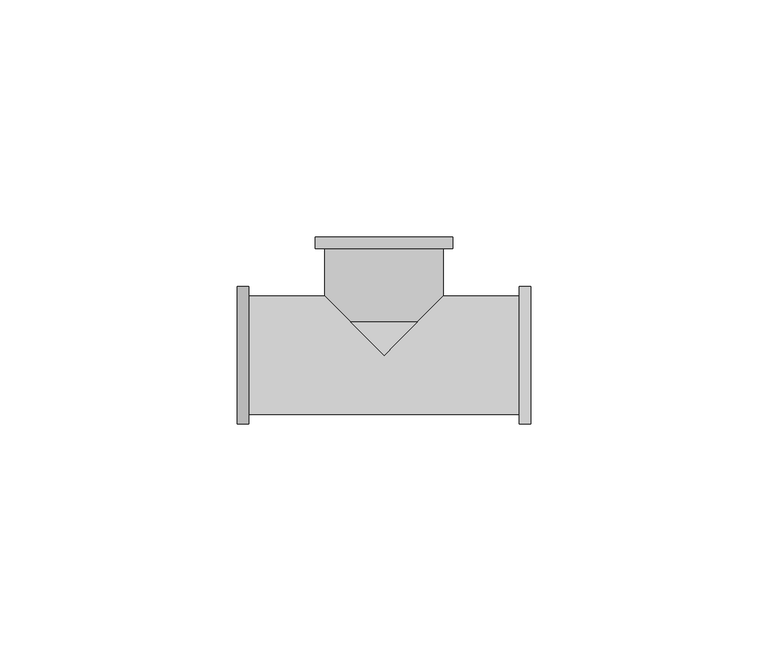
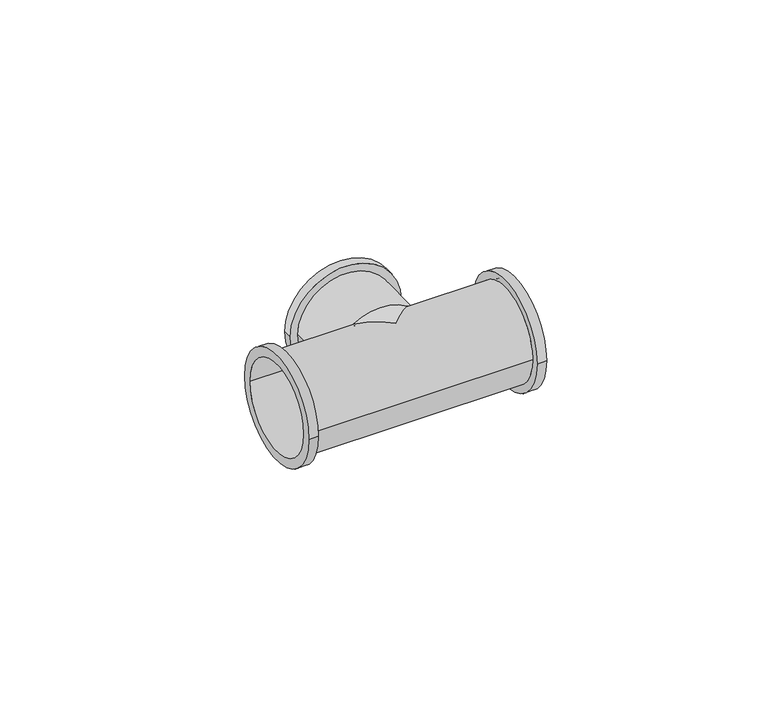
"""IFC4 building model written with IfcOpenShell, lengths in millimetres: pipe fitting geometry, БИР ПЕКС_НПР_Тройник_ВР : Тройник с внутренней резьбой."""

import ifcopenshell
import ifcopenshell.guid

model = None  # the IFC model being written
_history = None  # IfcOwnerHistory: only IFC2X3 demands one
_inside = {}  # id of a spatial element -> (the spatial element, [elements in it])
_under = {}  # id of a project, library or spatial element -> (it, [spatial elements below it])
_declared = {}  # id of a project -> (the project, [libraries it declares])
_typed = {}  # id of a type object -> (the type object, [elements of that type])
_made_of = {}  # id of a material, layer set ... -> (it, [elements and type objects made of it])


def new_model(schema):
    """Start an empty IFC model of exactly this schema.

    Asked for "IFC4X3", IfcOpenShell would pick the latest addendum, in which some entities
    have other attributes; the version numbers below select the first issue.
    IFC2X3 requires an IfcOwnerHistory on every rooted entity: one is made here for all.
    """
    global model, _history
    if schema == "IFC4X3":
        model = ifcopenshell.file(schema_version=(4, 3, 0, 0))
    else:
        model = ifcopenshell.file(schema=schema)
    _inside.clear()
    _under.clear()
    _declared.clear()
    _typed.clear()
    _made_of.clear()
    _history = None
    if model.schema == "IFC2X3":
        org = make("IfcOrganization", Name="unknown")
        user = make(
            "IfcPersonAndOrganization",
            ThePerson=make("IfcPerson", FamilyName="unknown"),
            TheOrganization=org,
        )
        app = make(
            "IfcApplication",
            ApplicationDeveloper=org,
            Version="unknown",
            ApplicationFullName="unknown",
            ApplicationIdentifier="unknown",
        )
        _history = make(
            "IfcOwnerHistory",
            OwningUser=user,
            OwningApplication=app,
            ChangeAction="ADDED",
            CreationDate=0,
        )
    return model


def make(cls, **values):
    """One entity of the class cls with the attributes given. An attribute that is None is left unset."""
    return model.create_entity(
        cls, **{name: value for name, value in values.items() if value is not None}
    )


def rooted(cls, **values):
    """An entity with a GlobalId (a new one), such as an element, a storey or a relation."""
    return make(cls, GlobalId=ifcopenshell.guid.new(), OwnerHistory=_history, **values)


def si_unit(unit_type, name, prefix=None):
    """IfcSIUnit, for example si_unit("LENGTHUNIT", "METRE", prefix="MILLI")."""
    return make("IfcSIUnit", UnitType=unit_type, Prefix=prefix, Name=name)


def assignment(units):
    """IfcUnitAssignment: the units of a project."""
    return None if units is None else make("IfcUnitAssignment", Units=units)


def point(xyz):
    """IfcCartesianPoint."""
    return None if xyz is None else make("IfcCartesianPoint", Coordinates=xyz)


def direction(xyz):
    """IfcDirection."""
    return None if xyz is None else make("IfcDirection", DirectionRatios=xyz)


def frame(location, z_axis=None, x_axis=None):
    """IfcAxis2Placement3D, a coordinate frame: its origin and axes. An axis left out is left unset."""
    return make(
        "IfcAxis2Placement3D",
        Location=point(location),
        Axis=direction(z_axis),
        RefDirection=direction(x_axis),
    )


def origin():
    """The frame at (0, 0, 0) with its axes left unset."""
    return frame((0.0, 0.0, 0.0))


def place(relative_to, where):
    """IfcLocalPlacement: puts the frame where relative to a parent placement (None: the world)."""
    return make(
        "IfcLocalPlacement", PlacementRelTo=relative_to, RelativePlacement=where
    )


def context(
    kind, dimensions, precision=None, world=None, true_north=None, identifier=None
):
    """IfcGeometricRepresentationContext, for example the 3D "Model" context."""
    return make(
        "IfcGeometricRepresentationContext",
        ContextIdentifier=identifier,
        ContextType=kind,
        CoordinateSpaceDimension=dimensions,
        Precision=precision,
        WorldCoordinateSystem=world,
        TrueNorth=true_north,
    )


def project(units=None, contexts=None):
    """IfcProject with its units and contexts."""
    return rooted(
        "IfcProject",
        Name="project",
        RepresentationContexts=contexts,
        UnitsInContext=assignment(units),
    )


def spatial(cls, under=None, at=None, **own):
    """A site, building, storey or space (cls), placed at a placement, below another one or the project."""
    s = rooted(cls, ObjectPlacement=at, **own)
    if under is not None:
        _under.setdefault(under.id(), (under, []))[1].append(s)
    return s


def polyline(points):
    """IfcPolyline through the points."""
    return make("IfcPolyline", Points=[point(p) for p in points])


def circle_curve(where, radius):
    """IfcCircle in the frame where."""
    return make("IfcCircle", Position=where, Radius=radius)


def ellipse_curve(where, semi_axis1, semi_axis2):
    """IfcEllipse in the frame where."""
    return make(
        "IfcEllipse", Position=where, SemiAxis1=semi_axis1, SemiAxis2=semi_axis2
    )


def shape(context_of_items, identifier, shape_type, items):
    """IfcShapeRepresentation: the items that make up one representation, for example the "Body"."""
    return make(
        "IfcShapeRepresentation",
        ContextOfItems=context_of_items,
        RepresentationIdentifier=identifier,
        RepresentationType=shape_type,
        Items=items,
    )


def source(mapping_origin, context_of_items, identifier, shape_type, items):
    """IfcRepresentationMap: a shape defined once, which mapped items show again and again."""
    return make(
        "IfcRepresentationMap",
        MappingOrigin=mapping_origin,
        MappedRepresentation=shape(context_of_items, identifier, shape_type, items),
    )


def transform(
    local_origin,
    x_axis=None,
    y_axis=None,
    z_axis=None,
    scale=None,
    scale2=None,
    scale3=None,
    uniform=True,
):
    """IfcCartesianTransformationOperator3D, or its non-uniform kind. x_axis, y_axis, z_axis: its Axis1, 2, 3."""
    if uniform:
        return make(
            "IfcCartesianTransformationOperator3D",
            Axis1=direction(x_axis),
            Axis2=direction(y_axis),
            LocalOrigin=point(local_origin),
            Scale=scale,
            Axis3=direction(z_axis),
        )
    return make(
        "IfcCartesianTransformationOperator3DnonUniform",
        Axis1=direction(x_axis),
        Axis2=direction(y_axis),
        LocalOrigin=point(local_origin),
        Scale=scale,
        Axis3=direction(z_axis),
        Scale2=scale2,
        Scale3=scale3,
    )


def mapped(mapping_source, mapping_target):
    """IfcMappedItem: shows the shape of a source again, moved by a transform."""
    return make(
        "IfcMappedItem", MappingSource=mapping_source, MappingTarget=mapping_target
    )


def made_of(thing, what):
    """Note that an element or type object is made of a material, layer set ...; save() writes the relation."""
    if what is not None:
        _made_of.setdefault(what.id(), (what, []))[1].append(thing)
    return thing


def element(
    cls,
    number,
    at=None,
    inside=None,
    cuts=None,
    type_object=None,
    material=None,
    context=None,
    identifier="Body",
    shape_type=None,
    held_by="IfcProductDefinitionShape",
    body=None,
    shapes=None,
    **own,
):
    """One element of the class cls, such as IfcWall. Its Tag is "e" and its number.

    at: its placement. inside: the storey or other place that contains it. cuts: it is an
    opening in that element (IfcRelVoidsElement). A single representation is given by context,
    identifier, shape_type and body (its items); several are given by shapes. held_by: the class
    of the entity that holds the representations. save() writes the other relations.
    """
    e = rooted(cls, Tag="e%d" % number, ObjectPlacement=at, **own)
    if body is not None:
        shapes = [shape(context, identifier, shape_type, body)]
    if shapes is not None:
        e.Representation = make(held_by, Representations=shapes)
    if inside is not None:
        _inside.setdefault(inside.id(), (inside, []))[1].append(e)
    if cuts is not None:
        rooted(
            "IfcRelVoidsElement", RelatingBuildingElement=cuts, RelatedOpeningElement=e
        )
    if type_object is not None:
        _typed.setdefault(type_object.id(), (type_object, []))[1].append(e)
    return made_of(e, material)


def aggregate(whole, parts):
    """IfcRelAggregates: a whole, such as a stair, and the parts it consists of."""
    return rooted("IfcRelAggregates", RelatingObject=whole, RelatedObjects=parts)


def save(model, path):
    """Write the relations noted so far, then the file.

    IfcRelAggregates (storeys below a building ...), IfcRelContainedInSpatialStructure (elements
    in a storey), IfcRelDefinesByType, IfcRelAssociatesMaterial and IfcRelDeclares: one each for
    every whole, place, type object, material and project.
    """
    for whole, parts in _under.values():
        aggregate(whole, parts)
    for where, things in _inside.values():
        rooted(
            "IfcRelContainedInSpatialStructure",
            RelatedElements=things,
            RelatingStructure=where,
        )
    for kind, things in _typed.values():
        rooted("IfcRelDefinesByType", RelatedObjects=things, RelatingType=kind)
    for what, things in _made_of.values():
        rooted("IfcRelAssociatesMaterial", RelatedObjects=things, RelatingMaterial=what)
    for by, libraries in _declared.values():
        rooted("IfcRelDeclares", RelatingContext=by, RelatedDefinitions=libraries)
    model.write(path)


def plane_surface(at):
    """IfcPlane: the flat surface through the origin of the frame at, square to its z axis."""
    return make("IfcPlane", Position=at)


def cylinder_surface(at, radius):
    """IfcCylindricalSurface: all points at the distance radius from the z axis of the frame at."""
    return make("IfcCylindricalSurface", Position=at, Radius=radius)


def revolved_surface(curve, axis_point, axis_direction):
    """IfcSurfaceOfRevolution: the curve turned about the line through axis_point along axis_direction."""
    return make(
        "IfcSurfaceOfRevolution",
        SweptCurve=make("IfcArbitraryOpenProfileDef", ProfileType="CURVE", Curve=curve),
        AxisPosition=make("IfcAxis1Placement", Location=point(axis_point), Axis=direction(axis_direction)),
    )


def advanced_brep(points, edges, surfaces, faces):
    """IfcAdvancedBrep: a solid bounded by faces that lie on surfaces and meet in shared edges.

    An edge is (start, end): straight between two places in points (the first is 0);
    or (start, end, curve); or (start, end, curve, False) where it runs against its curve.
    A face is (place in surfaces, loops), or (place, loops, False) where it looks against
    its surface's normal. A loop lists edges by number (the first is 1), with a minus sign
    where the edge is run from its end to its start. The first loop is the outer one.
    """
    corners = [point(p) for p in points]
    vertices = [make("IfcVertexPoint", VertexGeometry=c) for c in corners]
    made = []
    for start, end, *more in edges:
        made.append(
            make(
                "IfcEdgeCurve",
                EdgeStart=vertices[start],
                EdgeEnd=vertices[end],
                EdgeGeometry=more[0] if more else make("IfcPolyline", Points=[corners[start], corners[end]]),
                SameSense=more[1] if len(more) > 1 else True,
            )
        )
    hull = []
    for where, loops, *sense in faces:
        bounds = []
        for j, loop in enumerate(loops):
            ring = [make("IfcOrientedEdge", EdgeElement=made[abs(k) - 1], Orientation=k > 0) for k in loop]
            bounds.append(
                make(
                    "IfcFaceOuterBound" if j == 0 else "IfcFaceBound",
                    Bound=make("IfcEdgeLoop", EdgeList=ring),
                    Orientation=True,
                )
            )
        hull.append(make("IfcAdvancedFace", Bounds=bounds, FaceSurface=surfaces[where], SameSense=sense[0] if sense else True))
    return make("IfcAdvancedBrep", Outer=make("IfcClosedShell", CfsFaces=hull))


def pipe_fitting_9d34596f(model_context):
    return source(origin(), model_context, "Body", "AdvancedBrep", [
        advanced_brep(
        [(7.0, 7.0, -10.3561576), (0.0, 0.0, -12.5), (-7.0, 7.0, -10.3561576), (0.0, 0.0, 12.5), (7.0, 7.0, 10.3561576), (-7.0, 7.0, 10.3561576), (31.0, -14.5, 0.0), (31.0, 14.5, 0.0), (31.0, 12.0, 0.0), (31.0, -12.0, 0.0), (-31.0, -14.5, 0.0), (-31.0, 14.5, 0.0), (-31.0, -12.0, 0.0), (-31.0, 12.0, 0.0), (12.5, 12.5, 0.0), (28.5, 12.5, 0.0), (28.5, -12.5, 0.0), (-28.5, -12.5, 0.0), (-28.5, 12.5, 0.0), (-12.5, 12.5, 0.0), (-14.5, 22.5, 0.0), (14.5, 22.5, 0.0), (12.5, 22.5, 0.0), (-12.5, 22.5, 0.0), (-14.5, 25.0, 0.0), (14.5, 25.0, 0.0), (-28.5, -14.5, 0.0), (-28.5, 14.5, 0.0), (28.5, -14.5, 0.0), (28.5, 14.5, 0.0), (12.0, 12.0, 0.0), (0.0, 0.0, -12.0), (-12.0, 12.0, 0.0), (0.0, 0.0, 12.0), (12.0, 16.0, 0.0), (-12.0, 16.0, 0.0)],
        [
            (0, 1, ellipse_curve(frame((0.0, 0.0, 0.0), z_axis=(-0.7071067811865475, 0.7071067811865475, 0.0), x_axis=(-0.7071067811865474, -0.7071067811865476, 0.0)), 17.6776695, 12.5)),
            (1, 2, ellipse_curve(frame((0.0, 0.0, 0.0), z_axis=(0.7071067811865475, 0.7071067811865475, 0.0), x_axis=(0.7071067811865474, -0.7071067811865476, 0.0)), 17.6776695, 12.5)),
            (2, 0, circle_curve(frame((0.0, 7.0, 0.0), z_axis=(0.0, -1.0, 0.0), x_axis=(1.0, 0.0, 0.0)), 12.5)),
            (3, 4, ellipse_curve(frame((0.0, 0.0, 0.0), z_axis=(-0.7071067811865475, 0.7071067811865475, 0.0), x_axis=(-0.7071067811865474, -0.7071067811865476, 0.0)), 17.6776695, 12.5)),
            (4, 5, circle_curve(frame((0.0, 7.0, 0.0), z_axis=(0.0, -1.0, 0.0), x_axis=(1.0, 0.0, 0.0)), 12.5)),
            (5, 3, ellipse_curve(frame((0.0, 0.0, 0.0), z_axis=(0.7071067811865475, 0.7071067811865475, 0.0), x_axis=(0.7071067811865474, -0.7071067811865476, 0.0)), 17.6776695, 12.5)),
            (6, 7, circle_curve(frame((31.0, 0.0, 0.0), z_axis=(1.0, 0.0, 0.0), x_axis=(0.0, 1.0, 0.0)), 14.5)),
            (7, 6, circle_curve(frame((31.0, 0.0, 0.0), z_axis=(1.0, 0.0, 0.0), x_axis=(0.0, 1.0, 0.0)), 14.5)),
            (8, 9, circle_curve(frame((31.0, 0.0, 0.0), z_axis=(-1.0, 0.0, 0.0), x_axis=(0.0, 1.0, 0.0)), 12.0)),
            (9, 8, circle_curve(frame((31.0, 0.0, 0.0), z_axis=(-1.0, 0.0, 0.0), x_axis=(0.0, 1.0, 0.0)), 12.0)),
            (10, 11, circle_curve(frame((-31.0, 0.0, 0.0), z_axis=(-1.0, 0.0, 0.0), x_axis=(0.0, 1.0, 0.0)), 14.5)),
            (11, 10, circle_curve(frame((-31.0, 0.0, 0.0), z_axis=(-1.0, 0.0, 0.0), x_axis=(0.0, 1.0, 0.0)), 14.5)),
            (12, 13, circle_curve(frame((-31.0, 0.0, 0.0), z_axis=(1.0, 0.0, 0.0), x_axis=(0.0, 1.0, 0.0)), 12.0)),
            (13, 12, circle_curve(frame((-31.0, 0.0, 0.0), z_axis=(1.0, 0.0, 0.0), x_axis=(0.0, 1.0, 0.0)), 12.0)),
            (0, 14, ellipse_curve(frame((0.0, 0.0, 0.0), z_axis=(0.7071067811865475, -0.7071067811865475, 0.0), x_axis=(0.7071067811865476, 0.7071067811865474, 0.0)), 17.6776695, 12.5)),
            (14, 15),
            (15, 16, circle_curve(frame((28.5, 0.0, 0.0), z_axis=(-1.0, 0.0, 0.0), x_axis=(0.0, 1.0, 0.0)), 12.5)),
            (16, 17),
            (17, 18, circle_curve(frame((-28.5, 0.0, 0.0), z_axis=(1.0, 0.0, 0.0), x_axis=(0.0, 1.0, 0.0)), 12.5)),
            (18, 19),
            (19, 2, ellipse_curve(frame((0.0, 0.0, 0.0), z_axis=(-0.7071067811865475, -0.7071067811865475, 0.0), x_axis=(0.7071067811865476, -0.7071067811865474, 0.0)), 17.6776695, 12.5)),
            (5, 19, ellipse_curve(frame((0.0, 0.0, 0.0), z_axis=(-0.7071067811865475, -0.7071067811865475, 0.0), x_axis=(0.7071067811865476, -0.7071067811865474, 0.0)), 17.6776695, 12.5)),
            (18, 17, circle_curve(frame((-28.5, 0.0, 0.0), z_axis=(1.0, 0.0, 0.0), x_axis=(0.0, 1.0, 0.0)), 12.5)),
            (16, 15, circle_curve(frame((28.5, 0.0, 0.0), z_axis=(-1.0, 0.0, 0.0), x_axis=(0.0, 1.0, 0.0)), 12.5)),
            (14, 4, ellipse_curve(frame((0.0, 0.0, 0.0), z_axis=(0.7071067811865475, -0.7071067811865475, 0.0), x_axis=(0.7071067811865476, 0.7071067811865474, 0.0)), 17.6776695, 12.5)),
            (20, 21, circle_curve(frame((0.0, 22.5, 0.0), z_axis=(0.0, -1.0, 0.0), x_axis=(1.0, 0.0, 0.0)), 14.5)),
            (21, 20, circle_curve(frame((0.0, 22.5, 0.0), z_axis=(0.0, -1.0, 0.0), x_axis=(1.0, 0.0, 0.0)), 14.5)),
            (22, 23, circle_curve(frame((0.0, 22.5, 0.0), z_axis=(0.0, 1.0, 0.0), x_axis=(1.0, 0.0, 0.0)), 12.5)),
            (23, 22, circle_curve(frame((0.0, 22.5, 0.0), z_axis=(0.0, 1.0, 0.0), x_axis=(1.0, 0.0, 0.0)), 12.5)),
            (20, 24),
            (24, 25, circle_curve(frame((0.0, 25.0, 0.0), z_axis=(0.0, -1.0, 0.0), x_axis=(1.0, 0.0, 0.0)), 14.5)),
            (25, 21),
            (25, 24, circle_curve(frame((0.0, 25.0, 0.0), z_axis=(0.0, -1.0, 0.0), x_axis=(1.0, 0.0, 0.0)), 14.5)),
            (26, 27, circle_curve(frame((-28.5, 0.0, 0.0), z_axis=(1.0, 0.0, 0.0), x_axis=(0.0, 1.0, 0.0)), 14.5)),
            (27, 26, circle_curve(frame((-28.5, 0.0, 0.0), z_axis=(1.0, 0.0, 0.0), x_axis=(0.0, 1.0, 0.0)), 14.5)),
            (11, 27),
            (26, 10),
            (28, 29, circle_curve(frame((28.5, 0.0, 0.0), z_axis=(-1.0, 0.0, 0.0), x_axis=(0.0, 1.0, 0.0)), 14.5)),
            (29, 28, circle_curve(frame((28.5, 0.0, 0.0), z_axis=(-1.0, 0.0, 0.0), x_axis=(0.0, 1.0, 0.0)), 14.5)),
            (6, 28),
            (29, 7),
            (22, 14),
            (19, 23),
            (12, 9),
            (8, 30),
            (30, 31, ellipse_curve(frame((0.0, 0.0, 0.0), z_axis=(-0.7071067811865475, 0.7071067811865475, 0.0), x_axis=(0.7071067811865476, 0.7071067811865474, 0.0)), 16.9705627, 12.0)),
            (31, 32, ellipse_curve(frame((0.0, 0.0, 0.0), z_axis=(0.7071067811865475, 0.7071067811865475, 0.0), x_axis=(0.7071067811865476, -0.7071067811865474, 0.0)), 16.9705627, 12.0)),
            (32, 13),
            (32, 33, ellipse_curve(frame((0.0, 0.0, 0.0), z_axis=(0.7071067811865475, 0.7071067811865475, 0.0), x_axis=(0.7071067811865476, -0.7071067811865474, 0.0)), 16.9705627, 12.0)),
            (33, 30, ellipse_curve(frame((0.0, 0.0, 0.0), z_axis=(-0.7071067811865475, 0.7071067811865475, 0.0), x_axis=(0.7071067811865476, 0.7071067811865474, 0.0)), 16.9705627, 12.0)),
            (34, 35, circle_curve(frame((0.0, 16.0, 0.0), z_axis=(0.0, 1.0, 0.0), x_axis=(1.0, 0.0, 0.0)), 12.0)),
            (35, 32),
            (30, 34),
            (35, 34, circle_curve(frame((0.0, 16.0, 0.0), z_axis=(0.0, 1.0, 0.0), x_axis=(1.0, 0.0, 0.0)), 12.0)),
        ],
        [
            cylinder_surface(frame((0.0, 7.0, 0.0), z_axis=(0.0, -1.0, 0.0), x_axis=(1.0, 0.0, 0.0)), 12.5),
            plane_surface(frame((31.0, 12.5, 0.0), z_axis=(1.0, 0.0, 0.0), x_axis=(0.0, 0.0, 1.0))),
            plane_surface(frame((-31.0, 12.5, 0.0), z_axis=(-1.0, 0.0, 0.0), x_axis=(0.0, 0.0, -1.0))),
            cylinder_surface(frame((-31.0, 0.0, 0.0), z_axis=(1.0, 0.0, 0.0), x_axis=(0.0, 1.0, 0.0)), 12.5),
            plane_surface(frame((14.5, 22.5, 0.0), z_axis=(0.0, -1.0, 0.0), x_axis=(0.0, 0.0, 1.0))),
            cylinder_surface(frame((0.0, 25.0, 0.0), z_axis=(0.0, -1.0, 0.0), x_axis=(1.0, 0.0, 0.0)), 14.5),
            plane_surface(frame((-28.5, 14.5, 0.0), z_axis=(1.0, 0.0, 0.0), x_axis=(0.0, 0.0, 1.0))),
            cylinder_surface(frame((-28.5, 0.0, 0.0), z_axis=(-1.0, 0.0, 0.0), x_axis=(0.0, 1.0, 0.0)), 14.5),
            plane_surface(frame((28.5, 14.5, 0.0), z_axis=(-1.0, 0.0, 0.0), x_axis=(0.0, 0.0, -1.0))),
            cylinder_surface(frame((28.5, 0.0, 0.0), z_axis=(1.0, 0.0, 0.0), x_axis=(0.0, 1.0, 0.0)), 14.5),
            plane_surface(frame((14.5, 25.0, 0.0), z_axis=(0.0, 1.0, 0.0), x_axis=(0.0, 0.0, -1.0))),
            cylinder_surface(frame((0.0, 22.5, 0.0), z_axis=(0.0, -1.0, 0.0), x_axis=(1.0, 0.0, 0.0)), 12.5),
            revolved_surface(polyline([(31.0, 12.0, 0.0), (-31.0, 12.0, 0.0)]), (-31.0, 0.0, 0.0), (1.0, 0.0, 0.0)),
            revolved_surface(polyline([(12.0, -11.999999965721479, 0.0), (12.0, 16.0, 0.0)]), (0.0, 16.0, 0.0), (0.0, -1.0, 0.0)),
            plane_surface(frame((12.0, 16.0, 0.0), z_axis=(0.0, -1.0, 0.0), x_axis=(0.0, 0.0, -1.0))),
        ],
        [
            (0, [[1, 2, 3]]),
            (0, [[4, 5, 6]]),
            (1, [[7, 8], [9, 10]]),
            (2, [[11, 12], [13, 14]]),
            (3, [[-1, 15, 16, 17, 18, 19, 20, 21, -2]]),
            (3, [[-4, -6, 22, -20, 23, -18, 24, -16, 25]]),
            (4, [[26, 27], [28, 29]]),
            (5, [[-26, 30, 31, 32]]),
            (5, [[-27, -32, 33, -30]]),
            (6, [[34, 35], [-19, -23]]),
            (7, [[-12, 36, -34, 37]]),
            (7, [[-11, -37, -35, -36]]),
            (8, [[38, 39], [-17, -24]]),
            (9, [[-7, 40, -39, 41]]),
            (9, [[-8, -41, -38, -40]]),
            (10, [[-33, -31]]),
            (11, [[42, -15, -3, -21, 43, -28]]),
            (11, [[-42, -29, -43, -22, -5, -25]]),
            (12, [[44, -9, 45, 46, 47, 48, -13]]),
            (12, [[-44, -14, -48, 49, 50, -45, -10]]),
            (13, [[51, 52, -47, -46, 53]]),
            (13, [[54, -53, -50, -49, -52]]),
            (14, [[-51, -54]]),
        ],
    ),
    ])


if __name__ == "__main__":
    model = new_model("IFC4")
    model_context = context("Model", 3, world=origin())
    ifc_project = project(units=[si_unit("LENGTHUNIT", "METRE", prefix="MILLI")], contexts=[model_context])
    site = spatial("IfcSite", under=ifc_project)
    building = spatial("IfcBuilding", under=site)
    placement = place(None, origin())
    pipe_fitting_shape = pipe_fitting_9d34596f(model_context)
    element("IfcPipeFitting", 1, ObjectType="БИР ПЕКС_НПР_Тройник_ВР : Тройник с внутренней резьбой", at=placement, inside=building, context=model_context, shape_type="MappedRepresentation", body=[
        mapped(pipe_fitting_shape, transform((0.0, 0.0, 0.0), x_axis=(1.0, 0.0, 0.0), y_axis=(0.0, 1.0, 0.0), z_axis=(0.0, 0.0, 1.0))),
    ])
    save(model, "model.ifc")
